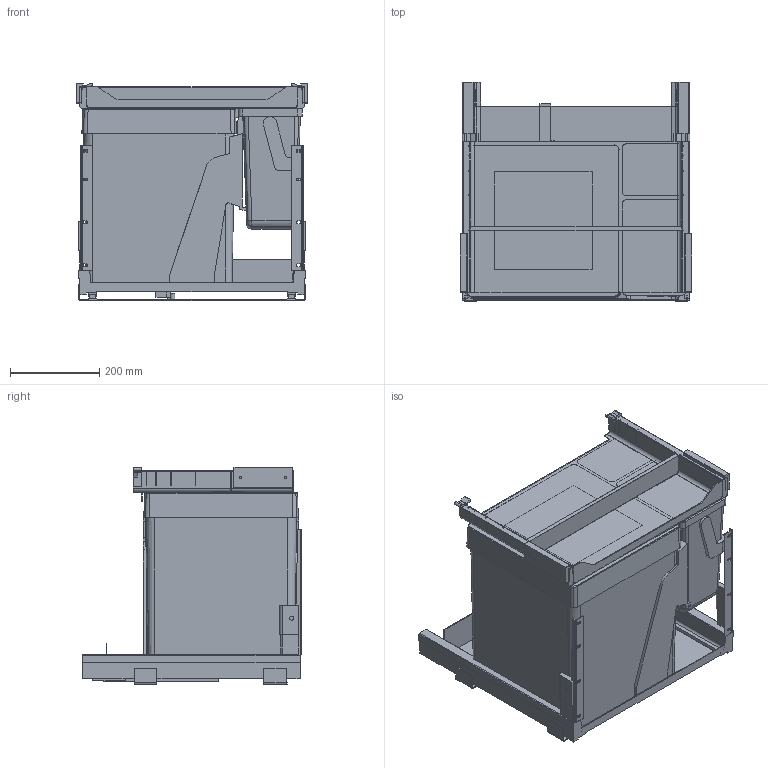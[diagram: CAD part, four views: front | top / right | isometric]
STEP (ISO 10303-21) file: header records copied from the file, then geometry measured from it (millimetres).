
FILE_DESCRIPTION(('STEP AP242'),'1');
FILE_NAME('OPO_53.433.01.stp','2025-11-08T20:29:12',(' '),(' '),'Spatial InterOp 3D',' ',' ');
FILE_SCHEMA(('AP242_MANAGED_MODEL_BASED_3D_ENGINEERING_MIM_LF {1 0 10303 442 1 1 4}'));
Length unit declared in the file: millimetre
Products named in the file (1): 1
Bounding box: 518 x 492 x 487.85 mm (x, y, z)
Volume: 57814943.3 mm3; surface area: 2134672 mm2
Topology: 1 solids, 1 shells, 846 faces, 2444 edges, 1582 vertices
Faces by surface type: plane 436, cylinder 342, sphere 20, cone 20, torus 16, bspline 12
Entity records: 37128 total; most frequent: CARTESIAN_POINT 7320, ORIENTED_EDGE 4888, DIRECTION 4881, EDGE_CURVE 2444, LINE 1657, VECTOR 1657, AXIS2_PLACEMENT_3D 1612, VERTEX_POINT 1582
